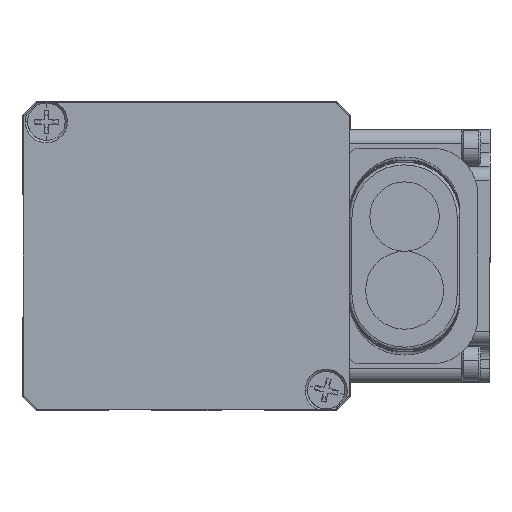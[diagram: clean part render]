
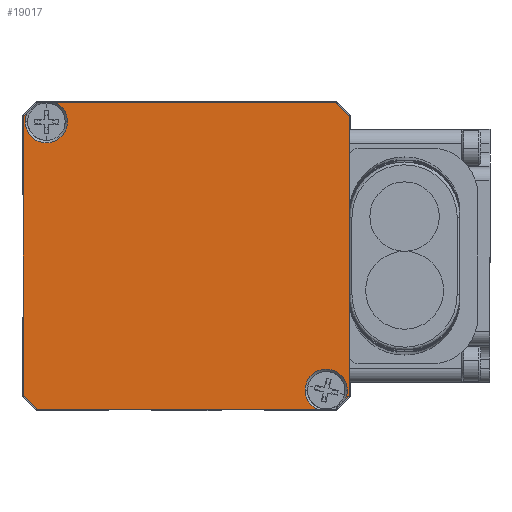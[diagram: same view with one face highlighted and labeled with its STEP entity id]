
A CAD part, front view. The second image highlights one B-rep face of the part: STEP entity #19017.
In plain terms, the highlighted planar face has unit normal (0, -1, 0).
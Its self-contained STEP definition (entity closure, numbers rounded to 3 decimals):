
#134 = DIRECTION ( 'NONE',  ( 0., 1., 0. ) ) ;
#156 = DIRECTION ( 'NONE',  ( -1., 0., 0. ) ) ;
#315 = PLANE ( 'NONE',  #17478 ) ;
#545 = VERTEX_POINT ( 'NONE', #3431 ) ;
#780 = VERTEX_POINT ( 'NONE', #12159 ) ;
#784 = EDGE_CURVE ( 'NONE', #32734, #11777, #4866, .T. ) ;
#864 = LINE ( 'NONE', #12199, #34280 ) ;
#1004 = DIRECTION ( 'NONE',  ( 0., -1., 0. ) ) ;
#1115 = CARTESIAN_POINT ( 'NONE',  ( 14.9, -22.5, -13.3 ) ) ;
#1965 = ORIENTED_EDGE ( 'NONE', *, *, #12626, .F. ) ;
#2325 = ORIENTED_EDGE ( 'NONE', *, *, #30161, .F. ) ;
#3431 = CARTESIAN_POINT ( 'NONE',  ( -17.35, -22.5, 15.85 ) ) ;
#3725 = ORIENTED_EDGE ( 'NONE', *, *, #784, .F. ) ;
#4072 = AXIS2_PLACEMENT_3D ( 'NONE', #11534, #17482, #34229 ) ;
#4866 = CIRCLE ( 'NONE', #19103, 2.25 ) ;
#5083 = VERTEX_POINT ( 'NONE', #11855 ) ;
#5143 = AXIS2_PLACEMENT_3D ( 'NONE', #23231, #26579, #29358 ) ;
#5161 = LINE ( 'NONE', #8119, #7707 ) ;
#5243 = CARTESIAN_POINT ( 'NONE',  ( -12.65, -22.5, 15.3 ) ) ;
#5448 = EDGE_CURVE ( 'NONE', #780, #545, #5161, .T. ) ;
#6668 = VERTEX_POINT ( 'NONE', #14525 ) ;
#6835 = EDGE_CURVE ( 'NONE', #33739, #17693, #27157, .T. ) ;
#7076 = VECTOR ( 'NONE', #23258, 1000. ) ;
#7112 = CARTESIAN_POINT ( 'NONE',  ( -17.35, -22.5, -13.85 ) ) ;
#7707 = VECTOR ( 'NONE', #24863, 1000. ) ;
#8119 = CARTESIAN_POINT ( 'NONE',  ( -17.35, -22.5, -15.35 ) ) ;
#9541 = CARTESIAN_POINT ( 'NONE',  ( -17.15, -22.5, 15.3 ) ) ;
#10193 = ORIENTED_EDGE ( 'NONE', *, *, #6835, .F. ) ;
#11478 = VECTOR ( 'NONE', #30199, 1000. ) ;
#11534 = CARTESIAN_POINT ( 'NONE',  ( 14.9, -22.5, -13.3 ) ) ;
#11777 = VERTEX_POINT ( 'NONE', #30248 ) ;
#11855 = CARTESIAN_POINT ( 'NONE',  ( 17.15, -22.5, -13.3 ) ) ;
#12159 = CARTESIAN_POINT ( 'NONE',  ( -17.35, -22.5, -13.85 ) ) ;
#12199 = CARTESIAN_POINT ( 'NONE',  ( -15.85, -22.5, 17.35 ) ) ;
#12626 = EDGE_CURVE ( 'NONE', #18320, #23843, #36210, .T. ) ;
#12836 = LINE ( 'NONE', #21010, #36385 ) ;
#13372 = EDGE_CURVE ( 'NONE', #5083, #29455, #29209, .T. ) ;
#14525 = CARTESIAN_POINT ( 'NONE',  ( -16.93, -22.5, 16.27 ) ) ;
#15177 = CARTESIAN_POINT ( 'NONE',  ( 15.85, -22.5, 17.35 ) ) ;
#15558 = CARTESIAN_POINT ( 'NONE',  ( 17.35, -22.5, -15.35 ) ) ;
#16116 = CARTESIAN_POINT ( 'NONE',  ( -17.35, -22.5, 17.35 ) ) ;
#16233 = CIRCLE ( 'NONE', #26343, 2.25 ) ;
#16487 = EDGE_LOOP ( 'NONE', ( #35200, #3725, #30187, #25087, #33559, #19608, #32770, #10193, #18456, #22847, #2325, #25938, #1965, #29068 ) ) ;
#16867 = CARTESIAN_POINT ( 'NONE',  ( 0., -22.5, 1. ) ) ;
#16977 = EDGE_CURVE ( 'NONE', #29455, #33739, #27471, .T. ) ;
#17237 = EDGE_CURVE ( 'NONE', #34349, #23843, #12836, .T. ) ;
#17478 = AXIS2_PLACEMENT_3D ( 'NONE', #16867, #134, #23177 ) ;
#17482 = DIRECTION ( 'NONE',  ( 0., -1., 0. ) ) ;
#17693 = VERTEX_POINT ( 'NONE', #23681 ) ;
#18320 = VERTEX_POINT ( 'NONE', #24191 ) ;
#18389 = DIRECTION ( 'NONE',  ( -1., 0., 0. ) ) ;
#18456 = ORIENTED_EDGE ( 'NONE', *, *, #16977, .F. ) ;
#18462 = DIRECTION ( 'NONE',  ( 0., -1., 0. ) ) ;
#18537 = DIRECTION ( 'NONE',  ( 0., 0., -1. ) ) ;
#19017 = ADVANCED_FACE ( 'NONE', ( #20371 ), #315, .F. ) ;
#19091 = VERTEX_POINT ( 'NONE', #15177 ) ;
#19103 = AXIS2_PLACEMENT_3D ( 'NONE', #22966, #1004, #20888 ) ;
#19608 = ORIENTED_EDGE ( 'NONE', *, *, #5448, .F. ) ;
#19662 = CARTESIAN_POINT ( 'NONE',  ( 16.93, -22.5, -14.27 ) ) ;
#20371 = FACE_OUTER_BOUND ( 'NONE', #16487, .T. ) ;
#20436 = CARTESIAN_POINT ( 'NONE',  ( 17.35, -22.5, -13.85 ) ) ;
#20706 = CARTESIAN_POINT ( 'NONE',  ( 13.973, -22.5, -15.35 ) ) ;
#20888 = DIRECTION ( 'NONE',  ( -1., 0., 0. ) ) ;
#21010 = CARTESIAN_POINT ( 'NONE',  ( 15.85, -22.5, -15.35 ) ) ;
#21205 = VERTEX_POINT ( 'NONE', #9541 ) ;
#22393 = CARTESIAN_POINT ( 'NONE',  ( 12.65, -22.5, -13.3 ) ) ;
#22401 = LINE ( 'NONE', #16116, #35976 ) ;
#22847 = ORIENTED_EDGE ( 'NONE', *, *, #13372, .F. ) ;
#22966 = CARTESIAN_POINT ( 'NONE',  ( -14.9, -22.5, 15.3 ) ) ;
#23177 = DIRECTION ( 'NONE',  ( 1., 0., 0. ) ) ;
#23231 = CARTESIAN_POINT ( 'NONE',  ( -14.9, -22.5, 15.3 ) ) ;
#23258 = DIRECTION ( 'NONE',  ( -0.707, 0., 0.707 ) ) ;
#23547 = CIRCLE ( 'NONE', #5143, 2.25 ) ;
#23681 = CARTESIAN_POINT ( 'NONE',  ( -15.85, -22.5, -15.35 ) ) ;
#23843 = VERTEX_POINT ( 'NONE', #20436 ) ;
#24191 = CARTESIAN_POINT ( 'NONE',  ( 17.35, -22.5, 15.85 ) ) ;
#24863 = DIRECTION ( 'NONE',  ( 0., 0., 1. ) ) ;
#24918 = EDGE_CURVE ( 'NONE', #6668, #21205, #16233, .T. ) ;
#25009 = EDGE_CURVE ( 'NONE', #780, #17693, #32593, .T. ) ;
#25087 = ORIENTED_EDGE ( 'NONE', *, *, #24918, .F. ) ;
#25424 = CARTESIAN_POINT ( 'NONE',  ( -14.9, -22.5, 15.3 ) ) ;
#25863 = LINE ( 'NONE', #31824, #7076 ) ;
#25938 = ORIENTED_EDGE ( 'NONE', *, *, #17237, .T. ) ;
#26093 = EDGE_CURVE ( 'NONE', #11777, #19091, #22401, .T. ) ;
#26343 = AXIS2_PLACEMENT_3D ( 'NONE', #25424, #36793, #156 ) ;
#26579 = DIRECTION ( 'NONE',  ( 0., -1., 0. ) ) ;
#27157 = LINE ( 'NONE', #35688, #33908 ) ;
#27185 = EDGE_CURVE ( 'NONE', #21205, #32734, #23547, .T. ) ;
#27471 = CIRCLE ( 'NONE', #32203, 2.25 ) ;
#27476 = DIRECTION ( 'NONE',  ( 1., 0., 0. ) ) ;
#27562 = EDGE_CURVE ( 'NONE', #6668, #545, #864, .T. ) ;
#29068 = ORIENTED_EDGE ( 'NONE', *, *, #30102, .T. ) ;
#29160 = VECTOR ( 'NONE', #18537, 1000. ) ;
#29209 = CIRCLE ( 'NONE', #29793, 2.25 ) ;
#29358 = DIRECTION ( 'NONE',  ( -1., 0., 0. ) ) ;
#29455 = VERTEX_POINT ( 'NONE', #22393 ) ;
#29774 = DIRECTION ( 'NONE',  ( -1., 0., 0. ) ) ;
#29793 = AXIS2_PLACEMENT_3D ( 'NONE', #1115, #32723, #29774 ) ;
#29956 = DIRECTION ( 'NONE',  ( 0.707, 0., 0.707 ) ) ;
#29995 = CARTESIAN_POINT ( 'NONE',  ( 14.9, -22.5, -13.3 ) ) ;
#30102 = EDGE_CURVE ( 'NONE', #18320, #19091, #25863, .T. ) ;
#30161 = EDGE_CURVE ( 'NONE', #34349, #5083, #30267, .T. ) ;
#30187 = ORIENTED_EDGE ( 'NONE', *, *, #27185, .F. ) ;
#30199 = DIRECTION ( 'NONE',  ( 0.707, 0., -0.707 ) ) ;
#30248 = CARTESIAN_POINT ( 'NONE',  ( -13.973, -22.5, 17.35 ) ) ;
#30267 = CIRCLE ( 'NONE', #4072, 2.25 ) ;
#31824 = CARTESIAN_POINT ( 'NONE',  ( 17.35, -22.5, 15.85 ) ) ;
#32203 = AXIS2_PLACEMENT_3D ( 'NONE', #29995, #18462, #32961 ) ;
#32593 = LINE ( 'NONE', #7112, #11478 ) ;
#32723 = DIRECTION ( 'NONE',  ( 0., -1., 0. ) ) ;
#32734 = VERTEX_POINT ( 'NONE', #5243 ) ;
#32770 = ORIENTED_EDGE ( 'NONE', *, *, #25009, .T. ) ;
#32961 = DIRECTION ( 'NONE',  ( -1., 0., 0. ) ) ;
#33559 = ORIENTED_EDGE ( 'NONE', *, *, #27562, .T. ) ;
#33739 = VERTEX_POINT ( 'NONE', #20706 ) ;
#33908 = VECTOR ( 'NONE', #18389, 1000. ) ;
#34229 = DIRECTION ( 'NONE',  ( -1., 0., 0. ) ) ;
#34280 = VECTOR ( 'NONE', #34894, 1000. ) ;
#34349 = VERTEX_POINT ( 'NONE', #19662 ) ;
#34894 = DIRECTION ( 'NONE',  ( -0.707, 0., -0.707 ) ) ;
#35200 = ORIENTED_EDGE ( 'NONE', *, *, #26093, .F. ) ;
#35688 = CARTESIAN_POINT ( 'NONE',  ( -17.35, -22.5, -15.35 ) ) ;
#35976 = VECTOR ( 'NONE', #27476, 1000. ) ;
#36210 = LINE ( 'NONE', #15558, #29160 ) ;
#36385 = VECTOR ( 'NONE', #29956, 1000. ) ;
#36793 = DIRECTION ( 'NONE',  ( 0., -1., 0. ) ) ;
